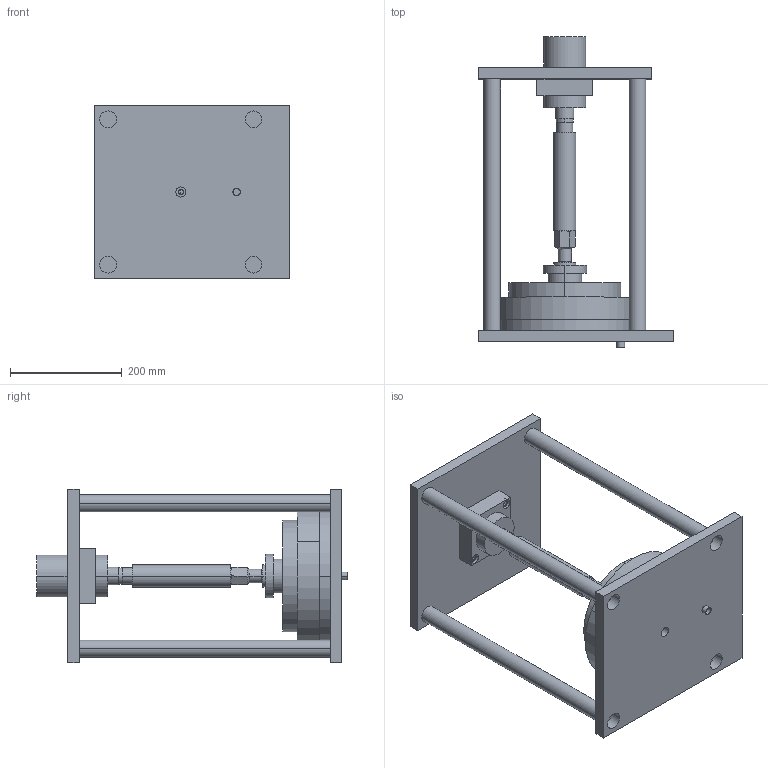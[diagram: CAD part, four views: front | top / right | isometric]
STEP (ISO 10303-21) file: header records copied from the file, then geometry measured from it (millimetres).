
FILE_DESCRIPTION((''),'2;1');
FILE_NAME('PRESSE_ASM','2005-12-20T',('rferrandes'),(''),'PRO/ENGINEER BY PARAMETRIC TECHNOLOGY CORPORATION, 2004110','PRO/ENGINEER BY PARAMETRIC TECHNOLOGY CORPORATION, 2004110','');
FILE_SCHEMA(('CONFIG_CONTROL_DESIGN'));
Length unit declared in the file: millimetre
Products named in the file (15): PLATEAU_BAS; COLONNE; PLATEAU_HAUT; SUP-VERIN; VERIN; CAPTEUR_FORCE; SUPPORT; MATRICE; SERRE_FLAN; CORPS_AMMOVIBLE; CORPS_FIXE; PRT0001; SPHERE_CN; CORPS_ASM; PRESSE_ASM
Assembly tree (17 placements, depth 3):
  PRESSE_ASM
    PLATEAU_BAS
    COLONNE  x4
    PLATEAU_HAUT
    SUP-VERIN
    VERIN
    CAPTEUR_FORCE
    SUPPORT
    MATRICE
    SERRE_FLAN
    CORPS_ASM
      CORPS_AMMOVIBLE
      CORPS_FIXE
      PRT0001
      SPHERE_CN
Bounding box: 350 x 556 x 310 mm (x, y, z)
Volume: 9426832 mm3; surface area: 1145101.9 mm2
Topology: 16 solids, 31 shells, 342 faces, 774 edges, 501 vertices
Faces by surface type: cylinder 196, plane 95, cone 32, torus 16, sphere 3
Entity records: 10052 total; most frequent: DIRECTION 1950, CARTESIAN_POINT 1686, ORIENTED_EDGE 1420, AXIS2_PLACEMENT_3D 846, EDGE_CURVE 738, VERTEX_POINT 489, CIRCLE 468, EDGE_LOOP 449
